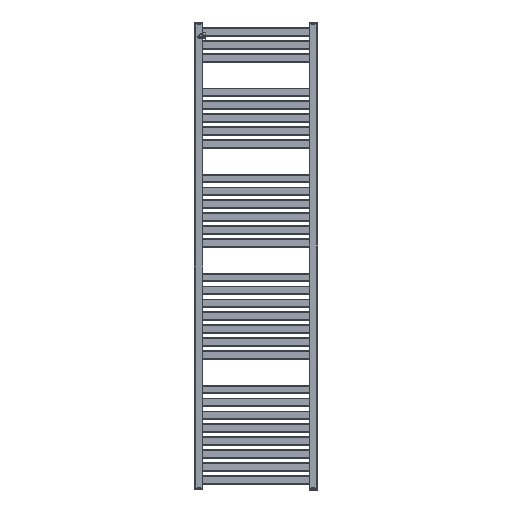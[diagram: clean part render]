
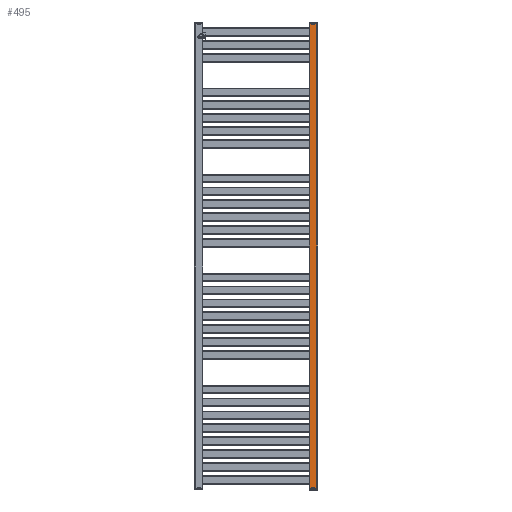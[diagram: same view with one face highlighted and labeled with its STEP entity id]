
A CAD part, front view. The second image highlights one B-rep face of the part: STEP entity #495.
In plain terms, the highlighted planar face has unit normal (0, -1, 0) as drawn and (-1, 0, 0) by its records, which use the part's own axes.
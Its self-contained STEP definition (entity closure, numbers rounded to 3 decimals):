
#495 = ADVANCED_FACE( '', ( #1252 ), #1253, .T. );
#1252 = FACE_OUTER_BOUND( '', #2301, .T. );
#1253 = PLANE( '', #2302 );
#2301 = EDGE_LOOP( '', ( #3925, #3926, #3927, #3928 ) );
#2302 = AXIS2_PLACEMENT_3D( '', #3929, #3930, #3931 );
#3925 = ORIENTED_EDGE( '', *, *, #6490, .T. );
#3926 = ORIENTED_EDGE( '', *, *, #6491, .T. );
#3927 = ORIENTED_EDGE( '', *, *, #6492, .F. );
#3928 = ORIENTED_EDGE( '', *, *, #6493, .T. );
#3929 = CARTESIAN_POINT( '', ( -15., 1626., 15. ) );
#3930 = DIRECTION( '', ( -1., 0., 0. ) );
#3931 = DIRECTION( '', ( 0., 0., 1. ) );
#6490 = EDGE_CURVE( '', #8002, #8003, #8004, .T. );
#6491 = EDGE_CURVE( '', #8003, #8005, #8006, .T. );
#6492 = EDGE_CURVE( '', #8007, #8005, #8008, .T. );
#6493 = EDGE_CURVE( '', #8007, #8002, #8009, .F. );
#8002 = VERTEX_POINT( '', #9977 );
#8003 = VERTEX_POINT( '', #9978 );
#8004 = LINE( '', #9979, #9980 );
#8005 = VERTEX_POINT( '', #9981 );
#8006 = LINE( '', #9982, #9983 );
#8007 = VERTEX_POINT( '', #9984 );
#8008 = LINE( '', #9985, #9986 );
#8009 = LINE( '', #9987, #9988 );
#9977 = CARTESIAN_POINT( '', ( -15., 1626., 12. ) );
#9978 = CARTESIAN_POINT( '', ( -15., 1626., -12. ) );
#9979 = CARTESIAN_POINT( '', ( -15., 1626., 15. ) );
#9980 = VECTOR( '', #11829, 1000. );
#9981 = CARTESIAN_POINT( '', ( -15., 0., -12. ) );
#9982 = CARTESIAN_POINT( '', ( -15., 1626., -12. ) );
#9983 = VECTOR( '', #11830, 1000. );
#9984 = CARTESIAN_POINT( '', ( -15., 0., 12. ) );
#9985 = CARTESIAN_POINT( '', ( -15., 0., 15. ) );
#9986 = VECTOR( '', #11831, 1000. );
#9987 = CARTESIAN_POINT( '', ( -15., 1626., 12. ) );
#9988 = VECTOR( '', #11832, 1000. );
#11829 = DIRECTION( '', ( 0., 0., -1. ) );
#11830 = DIRECTION( '', ( 0., -1., 0. ) );
#11831 = DIRECTION( '', ( 0., 0., -1. ) );
#11832 = DIRECTION( '', ( 0., -1., 0. ) );
